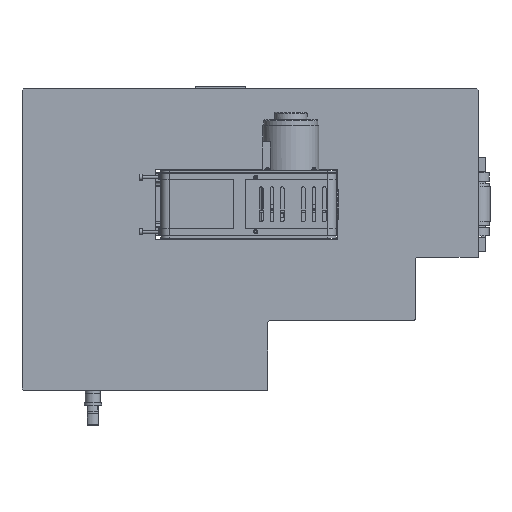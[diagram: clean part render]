
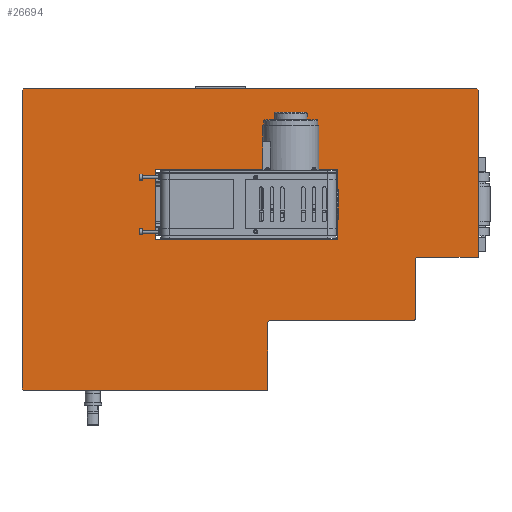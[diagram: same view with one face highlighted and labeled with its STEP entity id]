
A CAD part, front view. The second image highlights one B-rep face of the part: STEP entity #26694.
In plain terms, the highlighted planar face has unit normal (0, -1, 0) as drawn and (0, 0, 1) by its records, which use the part's own axes.
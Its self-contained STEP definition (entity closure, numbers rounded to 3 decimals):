
#1401=FACE_BOUND('',#4560,.T.);
#2756=FACE_OUTER_BOUND('',#4559,.T.);
#4559=EDGE_LOOP('',(#23242,#23243,#23244,#23245,#23246,#23247,#23248,#23249,
#23250,#23251,#23252,#23253,#23254,#23255));
#4560=EDGE_LOOP('',(#23256,#23257,#23258,#23259));
#5712=CIRCLE('',#29574,5.);
#5715=CIRCLE('',#29579,5.);
#5716=CIRCLE('',#29582,2.);
#7932=LINE('',#45178,#10382);
#7939=LINE('',#45196,#10389);
#7955=LINE('',#45231,#10405);
#7956=LINE('',#45233,#10406);
#7957=LINE('',#45236,#10407);
#7958=LINE('',#45238,#10408);
#7959=LINE('',#45240,#10409);
#7960=LINE('',#45242,#10410);
#7961=LINE('',#45244,#10411);
#7962=LINE('',#45246,#10412);
#7963=LINE('',#45247,#10413);
#7964=LINE('',#45250,#10414);
#7965=LINE('',#45252,#10415);
#7966=LINE('',#45254,#10416);
#7967=LINE('',#45255,#10417);
#10382=VECTOR('',#36505,10.);
#10389=VECTOR('',#36520,10.);
#10405=VECTOR('',#36546,10.);
#10406=VECTOR('',#36549,10.);
#10407=VECTOR('',#36552,10.);
#10408=VECTOR('',#36553,10.);
#10409=VECTOR('',#36554,10.);
#10410=VECTOR('',#36555,10.);
#10411=VECTOR('',#36556,10.);
#10412=VECTOR('',#36557,10.);
#10413=VECTOR('',#36558,10.);
#10414=VECTOR('',#36559,10.);
#10415=VECTOR('',#36560,10.);
#10416=VECTOR('',#36561,10.);
#10417=VECTOR('',#36562,10.);
#12790=VERTEX_POINT('',#45168);
#12791=VERTEX_POINT('',#45169);
#12794=VERTEX_POINT('',#45177);
#12798=VERTEX_POINT('',#45186);
#12799=VERTEX_POINT('',#45188);
#12801=VERTEX_POINT('',#45194);
#12802=VERTEX_POINT('',#45198);
#12803=VERTEX_POINT('',#45199);
#12816=VERTEX_POINT('',#45235);
#12817=VERTEX_POINT('',#45237);
#12818=VERTEX_POINT('',#45239);
#12819=VERTEX_POINT('',#45241);
#12820=VERTEX_POINT('',#45243);
#12821=VERTEX_POINT('',#45245);
#12822=VERTEX_POINT('',#45248);
#12823=VERTEX_POINT('',#45249);
#12824=VERTEX_POINT('',#45251);
#12825=VERTEX_POINT('',#45253);
#16323=EDGE_CURVE('',#12790,#12791,#5712,.T.);
#16327=EDGE_CURVE('',#12791,#12794,#7932,.T.);
#16332=EDGE_CURVE('',#12798,#12799,#5715,.T.);
#16336=EDGE_CURVE('',#12798,#12801,#7939,.T.);
#16337=EDGE_CURVE('',#12802,#12803,#5716,.T.);
#16354=EDGE_CURVE('',#12790,#12803,#7955,.T.);
#16355=EDGE_CURVE('',#12802,#12799,#7956,.T.);
#16356=EDGE_CURVE('',#12801,#12816,#7957,.T.);
#16357=EDGE_CURVE('',#12817,#12816,#7958,.T.);
#16358=EDGE_CURVE('',#12817,#12818,#7959,.T.);
#16359=EDGE_CURVE('',#12819,#12818,#7960,.T.);
#16360=EDGE_CURVE('',#12819,#12820,#7961,.T.);
#16361=EDGE_CURVE('',#12821,#12820,#7962,.T.);
#16362=EDGE_CURVE('',#12794,#12821,#7963,.T.);
#16363=EDGE_CURVE('',#12822,#12823,#7964,.T.);
#16364=EDGE_CURVE('',#12823,#12824,#7965,.T.);
#16365=EDGE_CURVE('',#12824,#12825,#7966,.T.);
#16366=EDGE_CURVE('',#12825,#12822,#7967,.T.);
#23242=ORIENTED_EDGE('',*,*,#16337,.F.);
#23243=ORIENTED_EDGE('',*,*,#16355,.T.);
#23244=ORIENTED_EDGE('',*,*,#16332,.F.);
#23245=ORIENTED_EDGE('',*,*,#16336,.T.);
#23246=ORIENTED_EDGE('',*,*,#16356,.T.);
#23247=ORIENTED_EDGE('',*,*,#16357,.F.);
#23248=ORIENTED_EDGE('',*,*,#16358,.T.);
#23249=ORIENTED_EDGE('',*,*,#16359,.F.);
#23250=ORIENTED_EDGE('',*,*,#16360,.T.);
#23251=ORIENTED_EDGE('',*,*,#16361,.F.);
#23252=ORIENTED_EDGE('',*,*,#16362,.F.);
#23253=ORIENTED_EDGE('',*,*,#16327,.F.);
#23254=ORIENTED_EDGE('',*,*,#16323,.F.);
#23255=ORIENTED_EDGE('',*,*,#16354,.T.);
#23256=ORIENTED_EDGE('',*,*,#16363,.T.);
#23257=ORIENTED_EDGE('',*,*,#16364,.T.);
#23258=ORIENTED_EDGE('',*,*,#16365,.T.);
#23259=ORIENTED_EDGE('',*,*,#16366,.T.);
#25238=PLANE('',#29587);
#26694=ADVANCED_FACE('',(#2756,#1401),#25238,.T.);
#29574=AXIS2_PLACEMENT_3D('',#45170,#36497,#36498);
#29579=AXIS2_PLACEMENT_3D('',#45189,#36513,#36514);
#29582=AXIS2_PLACEMENT_3D('',#45200,#36523,#36524);
#29587=AXIS2_PLACEMENT_3D('',#45234,#36550,#36551);
#36497=DIRECTION('center_axis',(0.,0.,1.));
#36498=DIRECTION('ref_axis',(-0.707,0.707,0.));
#36505=DIRECTION('',(0.,-1.,0.));
#36513=DIRECTION('center_axis',(0.,0.,1.));
#36514=DIRECTION('ref_axis',(-0.707,0.707,0.));
#36520=DIRECTION('',(1.,0.,0.));
#36523=DIRECTION('center_axis',(0.,0.,-1.));
#36524=DIRECTION('ref_axis',(0.707,-0.707,0.));
#36546=DIRECTION('',(1.,0.,0.));
#36549=DIRECTION('',(0.,1.,0.));
#36550=DIRECTION('center_axis',(0.,0.,1.));
#36551=DIRECTION('ref_axis',(1.,0.,0.));
#36552=DIRECTION('',(0.,1.,0.));
#36553=DIRECTION('',(0.707,-0.707,0.));
#36554=DIRECTION('',(-1.,0.,0.));
#36555=DIRECTION('',(0.707,0.707,0.));
#36556=DIRECTION('',(0.,-1.,0.));
#36557=DIRECTION('',(-0.707,0.707,0.));
#36558=DIRECTION('',(-1.,0.,0.));
#36559=DIRECTION('',(1.,0.,0.));
#36560=DIRECTION('',(0.,-1.,0.));
#36561=DIRECTION('',(-1.,0.,0.));
#36562=DIRECTION('',(0.,1.,0.));
#45168=CARTESIAN_POINT('',(-277.9,-132.5,10.));
#45169=CARTESIAN_POINT('',(-282.9,-137.5,10.));
#45170=CARTESIAN_POINT('Origin',(-277.9,-137.5,10.));
#45177=CARTESIAN_POINT('',(-282.9,-232.5,10.));
#45178=CARTESIAN_POINT('',(-282.9,-207.5,10.));
#45186=CARTESIAN_POINT('',(-67.9,-42.5,10.));
#45188=CARTESIAN_POINT('',(-72.9,-47.5,10.));
#45189=CARTESIAN_POINT('Origin',(-67.9,-47.5,10.));
#45194=CARTESIAN_POINT('',(17.1,-42.5,10.));
#45196=CARTESIAN_POINT('',(-145.4,-42.5,10.));
#45198=CARTESIAN_POINT('',(-72.9,-130.5,10.));
#45199=CARTESIAN_POINT('',(-74.9,-132.5,10.));
#45200=CARTESIAN_POINT('Origin',(-74.9,-130.5,10.));
#45231=CARTESIAN_POINT('',(-632.9,-132.5,10.));
#45233=CARTESIAN_POINT('',(-72.9,-5.,10.));
#45234=CARTESIAN_POINT('Origin',(-307.9,32.5,10.));
#45235=CARTESIAN_POINT('',(17.1,195.5,10.));
#45236=CARTESIAN_POINT('',(17.1,-132.5,10.));
#45237=CARTESIAN_POINT('',(15.1,197.5,10.));
#45238=CARTESIAN_POINT('',(-23.9,236.5,10.));
#45239=CARTESIAN_POINT('',(-630.9,197.5,10.));
#45240=CARTESIAN_POINT('',(17.1,197.5,10.));
#45241=CARTESIAN_POINT('',(-632.9,195.5,10.));
#45242=CARTESIAN_POINT('',(-591.9,236.5,10.));
#45243=CARTESIAN_POINT('',(-632.9,-230.5,10.));
#45244=CARTESIAN_POINT('',(-632.9,197.5,10.));
#45245=CARTESIAN_POINT('',(-630.9,-232.5,10.));
#45246=CARTESIAN_POINT('',(-616.9,-246.5,10.));
#45247=CARTESIAN_POINT('',(-545.4,-232.5,10.));
#45248=CARTESIAN_POINT('',(-443.123,82.5,10.));
#45249=CARTESIAN_POINT('',(-183.123,82.5,10.));
#45250=CARTESIAN_POINT('',(-443.123,82.5,10.));
#45251=CARTESIAN_POINT('',(-183.123,-17.5,10.));
#45252=CARTESIAN_POINT('',(-183.123,82.5,10.));
#45253=CARTESIAN_POINT('',(-443.123,-17.5,10.));
#45254=CARTESIAN_POINT('',(-183.123,-17.5,10.));
#45255=CARTESIAN_POINT('',(-443.123,-17.5,10.));
